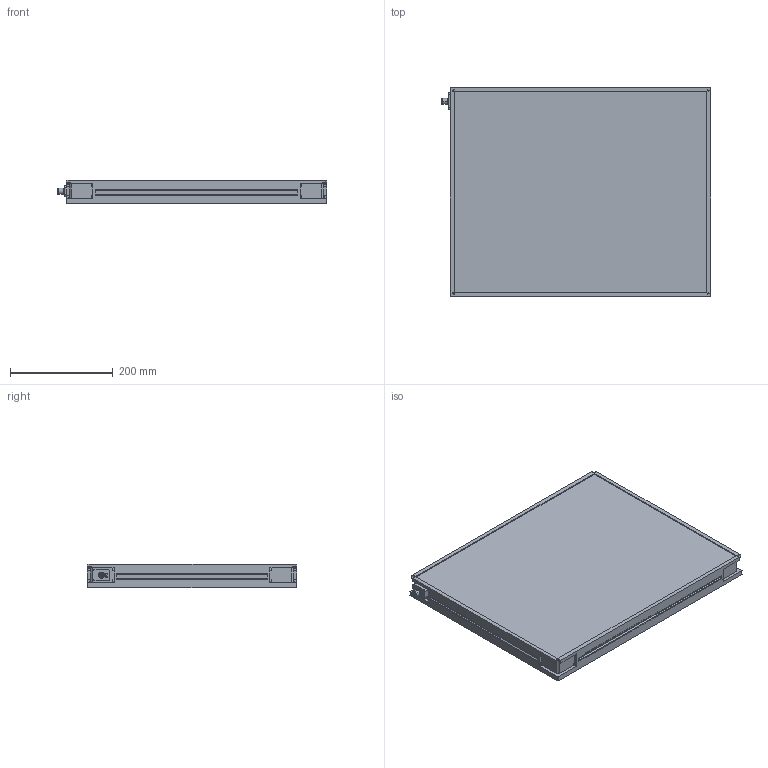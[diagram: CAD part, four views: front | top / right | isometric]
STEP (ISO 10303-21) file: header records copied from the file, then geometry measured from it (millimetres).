
FILE_DESCRIPTION (( 'STEP AP214' ), '1' );
FILE_NAME ('MBACK-xxxx-xxx-M1_CLIENT400x500.STEP', '2022-03-31T16:10:39', ( '' ), ( '' ), 'SwSTEP 2.0', 'SolidWorks 2020', '' );
FILE_SCHEMA (( 'AUTOMOTIVE_DESIGN' ));
Length unit declared in the file: millimetre
Products named in the file (1): MBACK-xxxx-xxx-M1_CLIENT400x500
Bounding box: 525.9 x 408 x 45.5 mm (x, y, z)
Volume: 8578559.5 mm3; surface area: 535993.2 mm2
Topology: 1 solids, 1 shells, 442 faces, 1144 edges, 760 vertices
Faces by surface type: plane 249, cylinder 105, bspline 80, cone 8
Entity records: 17236 total; most frequent: CARTESIAN_POINT 6699, ORIENTED_EDGE 2288, DIRECTION 1936, EDGE_CURVE 1144, VERTEX_POINT 760, VECTOR 758, LINE 758, AXIS2_PLACEMENT_3D 589
